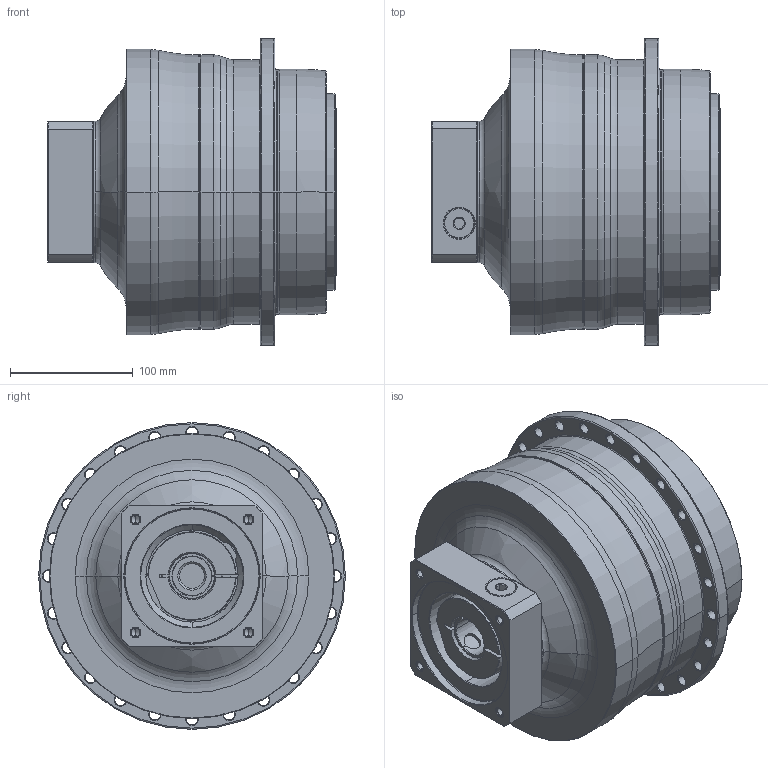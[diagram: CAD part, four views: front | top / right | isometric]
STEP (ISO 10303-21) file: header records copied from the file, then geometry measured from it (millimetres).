
FILE_DESCRIPTION((''),'2;1');
FILE_NAME('AP200_2ST_32-P0409710201_ASM','2018-05-29T',('d01226'),(''),'PRO/ENGINEER BY PARAMETRIC TECHNOLOGY CORPORATION, 2008410','PRO/ENGINEER BY PARAMETRIC TECHNOLOGY CORPORATION, 2008410','');
FILE_SCHEMA(('CONFIG_CONTROL_DESIGN'));
Length unit declared in the file: millimetre
Products named in the file (9): P0278601003; P0359601103; P1317610201; P0503700010; P0912552001; P1211600001; P0409710201; 21711418017; AP200_2ST_32-P0409710201_ASM
Assembly tree (8 placements, depth 2):
  AP200_2ST_32-P0409710201_ASM
    P0278601003
    P0359601103
    P1317610201
    P0503700010
    P0912552001
    P1211600001
    P0409710201
    21711418017
Bounding box: 235 x 249.5 x 249.5 mm (x, y, z)
Volume: 6506261.6 mm3; surface area: 519462 mm2
Topology: 9 solids, 34 shells, 647 faces, 1555 edges, 962 vertices
Faces by surface type: cylinder 271, cone 177, plane 108, torus 75, bspline 16
Entity records: 24045 total; most frequent: CARTESIAN_POINT 8181, DIRECTION 3643, ORIENTED_EDGE 2992, AXIS2_PLACEMENT_3D 1565, EDGE_CURVE 1547, VERTEX_POINT 962, CIRCLE 907, EDGE_LOOP 787
